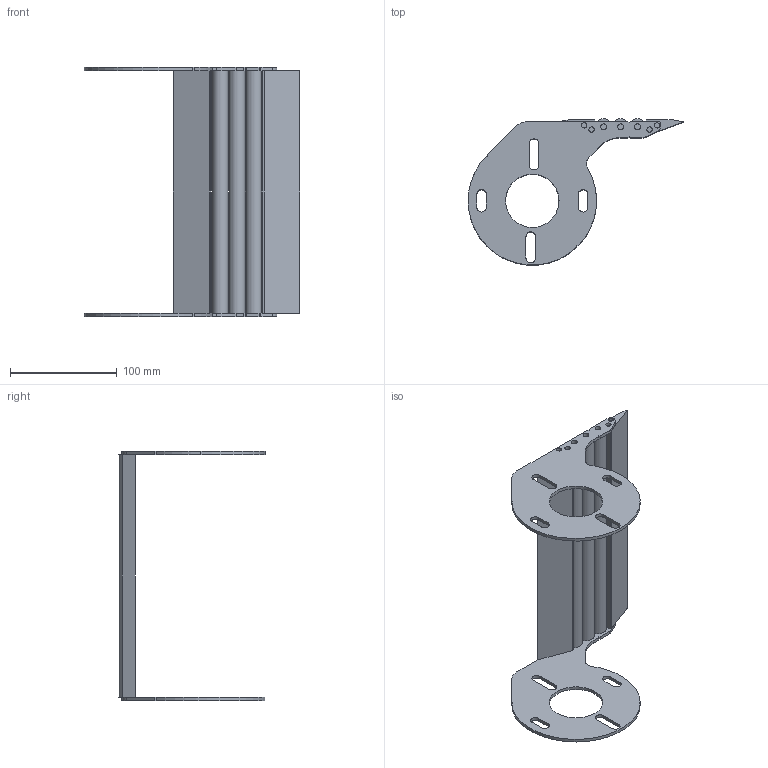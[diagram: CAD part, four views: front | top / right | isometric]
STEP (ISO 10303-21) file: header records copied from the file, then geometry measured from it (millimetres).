
FILE_DESCRIPTION (( 'STEP AP214' ), '1' );
FILE_NAME ('F2 750 TG2R.step', '2017-04-05T07:35:22', ( '' ), ( '' ), 'SwSTEP 2.0', 'SolidWorks 2015', '' );
FILE_SCHEMA (( 'AUTOMOTIVE_DESIGN' ));
Length unit declared in the file: millimetre
Products named in the file (1): F2 750 TG2R
Bounding box: 201.6 x 136.54 x 233 mm (x, y, z)
Volume: 311421.7 mm3; surface area: 121019.9 mm2
Topology: 1 solids, 1 shells, 157 faces, 427 edges, 278 vertices
Faces by surface type: plane 84, cylinder 73
Entity records: 6598 total; most frequent: DIRECTION 901, CARTESIAN_POINT 863, ORIENTED_EDGE 854, EDGE_CURVE 427, AXIS2_PLACEMENT_3D 316, VERTEX_POINT 278, VECTOR 269, LINE 269
